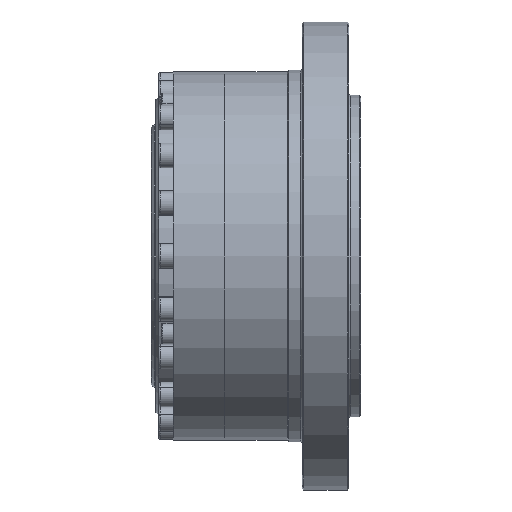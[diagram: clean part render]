
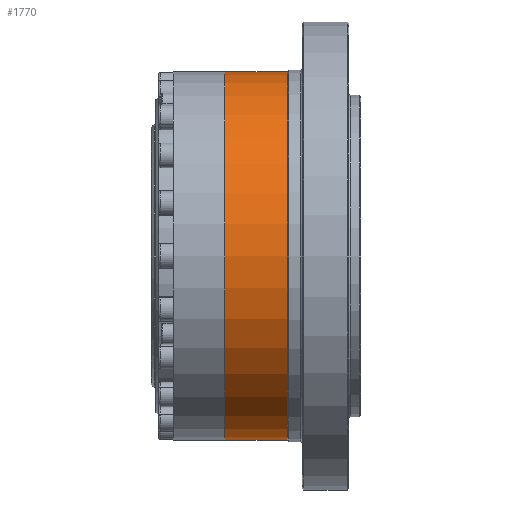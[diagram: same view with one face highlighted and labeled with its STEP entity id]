
A CAD part, front view. The second image highlights one B-rep face of the part: STEP entity #1770.
In plain terms, the highlighted cylindrical face has radius 63 mm (diameter 126 mm), a partial arc.
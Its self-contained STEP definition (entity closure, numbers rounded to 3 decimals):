
#506 = CARTESIAN_POINT ( 'NONE',  ( 80.512, 0., 63. ) ) ;
#651 = DIRECTION ( 'NONE',  ( 1., 0., 0. ) ) ;
#1309 = VERTEX_POINT ( 'NONE', #18770 ) ;
#1708 = CARTESIAN_POINT ( 'NONE',  ( 80.512, 0., -63. ) ) ;
#1770 = ADVANCED_FACE ( 'NONE', ( #23860 ), #7591, .T. ) ;
#3413 = ORIENTED_EDGE ( 'NONE', *, *, #25355, .F. ) ;
#3454 = EDGE_LOOP ( 'NONE', ( #3413, #17993, #26184, #23932 ) ) ;
#3635 = CARTESIAN_POINT ( 'NONE',  ( 49.411, 0., 63. ) ) ;
#4765 = LINE ( 'NONE', #506, #10823 ) ;
#5629 = VERTEX_POINT ( 'NONE', #17728 ) ;
#5955 = VECTOR ( 'NONE', #22530, 1000. ) ;
#6637 = CARTESIAN_POINT ( 'NONE',  ( 49.411, 0., 0. ) ) ;
#7591 = CYLINDRICAL_SURFACE ( 'NONE', #20190, 63. ) ;
#7830 = AXIS2_PLACEMENT_3D ( 'NONE', #6637, #20884, #8695 ) ;
#8695 = DIRECTION ( 'NONE',  ( 0., 0., -1. ) ) ;
#9069 = CARTESIAN_POINT ( 'NONE',  ( 27.911, 0., -63. ) ) ;
#10769 = CIRCLE ( 'NONE', #7830, 63. ) ;
#10823 = VECTOR ( 'NONE', #25029, 1000. ) ;
#11247 = VERTEX_POINT ( 'NONE', #9069 ) ;
#11360 = LINE ( 'NONE', #1708, #5955 ) ;
#12068 = DIRECTION ( 'NONE',  ( 1., 0., 0. ) ) ;
#12879 = CARTESIAN_POINT ( 'NONE',  ( 27.911, 0., 0. ) ) ;
#14133 = CARTESIAN_POINT ( 'NONE',  ( 80.512, 0., 0. ) ) ;
#14783 = AXIS2_PLACEMENT_3D ( 'NONE', #12879, #651, #14934 ) ;
#14934 = DIRECTION ( 'NONE',  ( 0., 0., -1. ) ) ;
#15328 = VERTEX_POINT ( 'NONE', #3635 ) ;
#16170 = DIRECTION ( 'NONE',  ( 0., 0., -1. ) ) ;
#17728 = CARTESIAN_POINT ( 'NONE',  ( 49.411, 0., -63. ) ) ;
#17993 = ORIENTED_EDGE ( 'NONE', *, *, #26007, .T. ) ;
#18770 = CARTESIAN_POINT ( 'NONE',  ( 27.911, 0., 63. ) ) ;
#19680 = EDGE_CURVE ( 'NONE', #15328, #5629, #10769, .T. ) ;
#20190 = AXIS2_PLACEMENT_3D ( 'NONE', #14133, #12068, #16170 ) ;
#20640 = EDGE_CURVE ( 'NONE', #11247, #5629, #11360, .T. ) ;
#20884 = DIRECTION ( 'NONE',  ( 1., 0., 0. ) ) ;
#22530 = DIRECTION ( 'NONE',  ( 1., 0., 0. ) ) ;
#23860 = FACE_OUTER_BOUND ( 'NONE', #3454, .T. ) ;
#23932 = ORIENTED_EDGE ( 'NONE', *, *, #19680, .F. ) ;
#25029 = DIRECTION ( 'NONE',  ( 1., 0., 0. ) ) ;
#25355 = EDGE_CURVE ( 'NONE', #1309, #15328, #4765, .T. ) ;
#25732 = CIRCLE ( 'NONE', #14783, 63. ) ;
#26007 = EDGE_CURVE ( 'NONE', #1309, #11247, #25732, .T. ) ;
#26184 = ORIENTED_EDGE ( 'NONE', *, *, #20640, .T. ) ;
